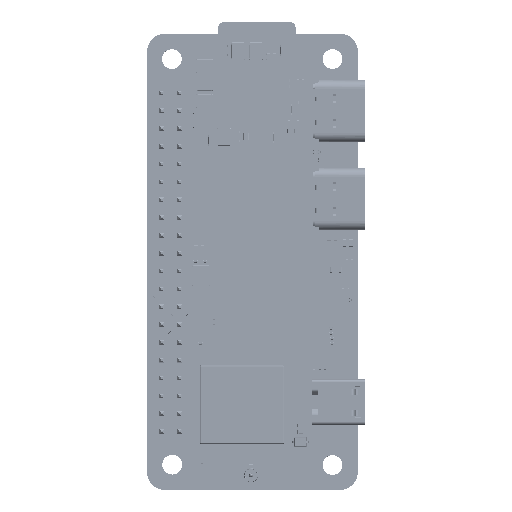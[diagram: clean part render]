
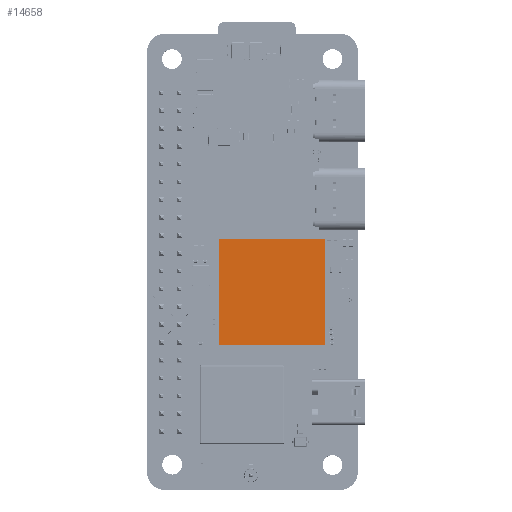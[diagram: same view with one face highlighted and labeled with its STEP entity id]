
A CAD part, top view. The second image highlights one B-rep face of the part: STEP entity #14658.
In plain terms, the highlighted planar face has unit normal (0, 0, 1).
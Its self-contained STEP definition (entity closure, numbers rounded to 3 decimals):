
#14543=DIRECTION('',(0.,-1.,0.));
#14544=VECTOR('',#14543,15.1);
#14545=CARTESIAN_POINT('',(-7.55,7.55,1.35));
#14546=LINE('',#14545,#14544);
#14547=DIRECTION('',(-1.,0.,0.));
#14548=VECTOR('',#14547,15.1);
#14549=CARTESIAN_POINT('',(7.55,7.55,1.35));
#14550=LINE('',#14549,#14548);
#14551=DIRECTION('',(0.,1.,0.));
#14552=VECTOR('',#14551,15.1);
#14553=CARTESIAN_POINT('',(7.55,-7.55,1.35));
#14554=LINE('',#14553,#14552);
#14555=DIRECTION('',(1.,0.,0.));
#14556=VECTOR('',#14555,15.1);
#14557=CARTESIAN_POINT('',(-7.55,-7.55,1.35));
#14558=LINE('',#14557,#14556);
#14567=CARTESIAN_POINT('',(-7.55,7.55,1.35));
#14568=CARTESIAN_POINT('',(-7.55,-7.55,1.35));
#14569=VERTEX_POINT('',#14567);
#14570=VERTEX_POINT('',#14568);
#14571=CARTESIAN_POINT('',(7.55,-7.55,1.35));
#14572=VERTEX_POINT('',#14571);
#14573=CARTESIAN_POINT('',(7.55,7.55,1.35));
#14574=VERTEX_POINT('',#14573);
#14647=CARTESIAN_POINT('',(0.,0.,1.35));
#14648=DIRECTION('',(0.,0.,1.));
#14649=DIRECTION('',(1.,0.,0.));
#14650=AXIS2_PLACEMENT_3D('',#14647,#14648,#14649);
#14651=PLANE('',#14650);
#14652=ORIENTED_EDGE('',*,*,#14599,.F.);
#14653=ORIENTED_EDGE('',*,*,#14614,.F.);
#14654=ORIENTED_EDGE('',*,*,#14628,.F.);
#14655=ORIENTED_EDGE('',*,*,#14641,.F.);
#14656=EDGE_LOOP('',(#14652,#14653,#14654,#14655));
#14657=FACE_OUTER_BOUND('',#14656,.F.);
#14658=ADVANCED_FACE('',(#14657),#14651,.T.);
#14599=EDGE_CURVE('',#14569,#14570,#14546,.T.);
#14614=EDGE_CURVE('',#14574,#14569,#14550,.T.);
#14628=EDGE_CURVE('',#14572,#14574,#14554,.T.);
#14641=EDGE_CURVE('',#14570,#14572,#14558,.T.);
